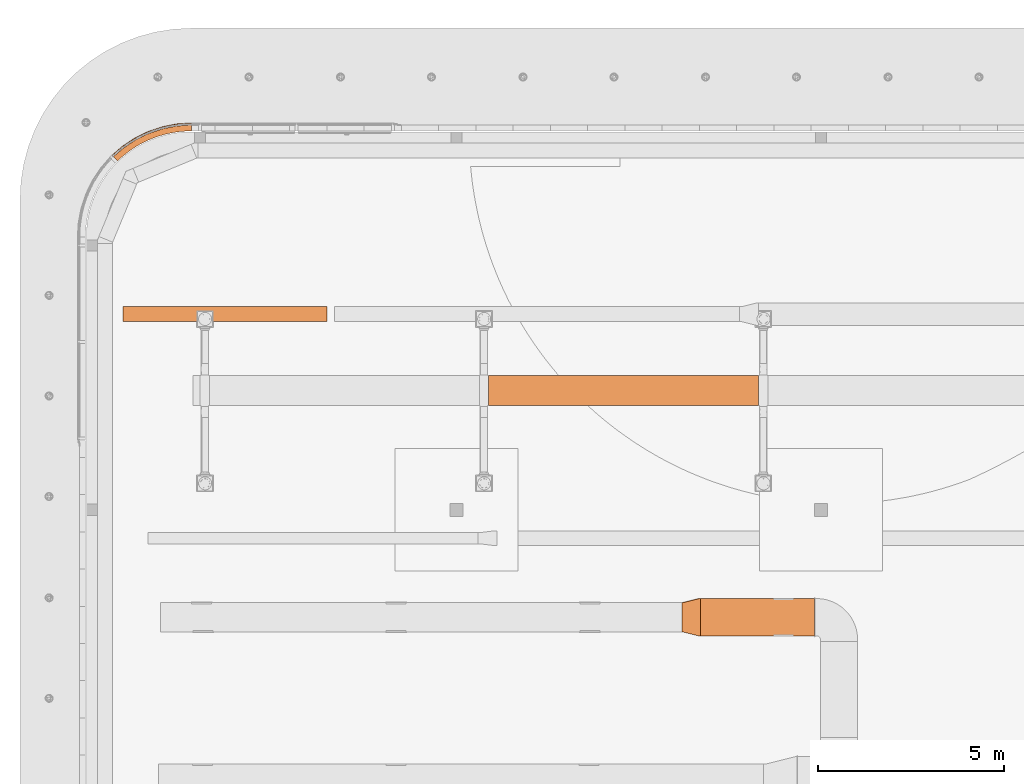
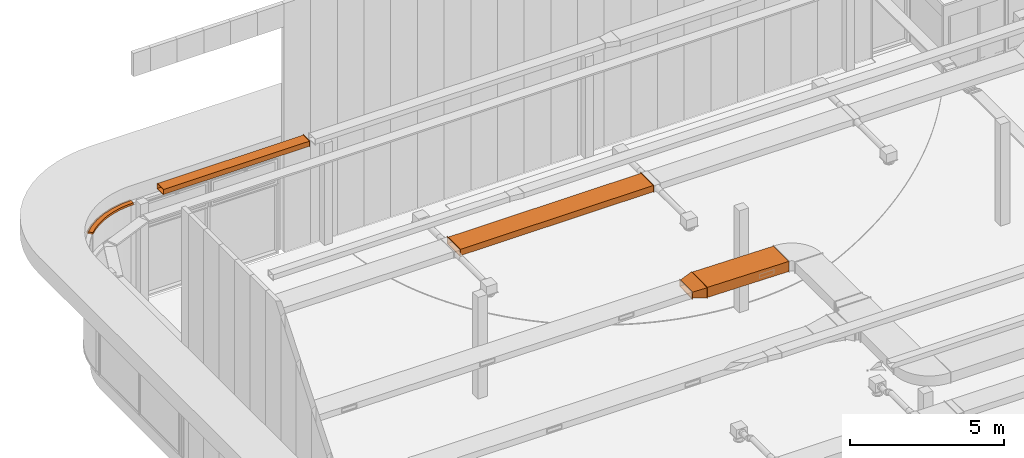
# One storey, part 297 of 302: 5 proxies.
"""IFC2X3 building model written with IfcOpenShell, lengths in metres."""

import ifcopenshell
import ifcopenshell.guid

model = None  # the IFC model being written
_history = None  # IfcOwnerHistory: only IFC2X3 demands one
_inside = {}  # id of a spatial element -> (the spatial element, [elements in it])
_under = {}  # id of a project, library or spatial element -> (it, [spatial elements below it])
_declared = {}  # id of a project -> (the project, [libraries it declares])
_typed = {}  # id of a type object -> (the type object, [elements of that type])
_made_of = {}  # id of a material, layer set ... -> (it, [elements and type objects made of it])


def new_model(schema):
    """Start an empty IFC model of exactly this schema.

    Asked for "IFC4X3", IfcOpenShell would pick the latest addendum, in which some entities
    have other attributes; the version numbers below select the first issue.
    IFC2X3 requires an IfcOwnerHistory on every rooted entity: one is made here for all.
    """
    global model, _history
    if schema == "IFC4X3":
        model = ifcopenshell.file(schema_version=(4, 3, 0, 0))
    else:
        model = ifcopenshell.file(schema=schema)
    _inside.clear()
    _under.clear()
    _declared.clear()
    _typed.clear()
    _made_of.clear()
    _history = None
    if model.schema == "IFC2X3":
        org = make("IfcOrganization", Name="unknown")
        user = make(
            "IfcPersonAndOrganization",
            ThePerson=make("IfcPerson", FamilyName="unknown"),
            TheOrganization=org,
        )
        app = make(
            "IfcApplication",
            ApplicationDeveloper=org,
            Version="unknown",
            ApplicationFullName="unknown",
            ApplicationIdentifier="unknown",
        )
        _history = make(
            "IfcOwnerHistory",
            OwningUser=user,
            OwningApplication=app,
            ChangeAction="ADDED",
            CreationDate=0,
        )
    return model


def make(cls, **values):
    """One entity of the class cls with the attributes given. An attribute that is None is left unset."""
    return model.create_entity(
        cls, **{name: value for name, value in values.items() if value is not None}
    )


def entity(cls, *values):
    """Any entity or typed value of the class cls, its attributes in the order of the schema. None: left unset."""
    e = model.create_entity(cls)
    for i, value in enumerate(values):
        if value is not None:
            e[i] = value
    return e


def rooted(cls, **values):
    """An entity with a GlobalId (a new one), such as an element, a storey or a relation."""
    return make(cls, GlobalId=ifcopenshell.guid.new(), OwnerHistory=_history, **values)


def si_unit(unit_type, name, prefix=None):
    """IfcSIUnit, for example si_unit("LENGTHUNIT", "METRE", prefix="MILLI")."""
    return make("IfcSIUnit", UnitType=unit_type, Prefix=prefix, Name=name)


def converted_unit(unit_type, name, factor, base, dimensions=None, offset=None):
    """IfcConversionBasedUnit, such as the inch: factor (a typed value) times the base unit."""
    return make(
        "IfcConversionBasedUnit"
        if offset is None
        else "IfcConversionBasedUnitWithOffset",
        ConversionOffset=offset,
        Dimensions=None
        if dimensions is None
        else entity("IfcDimensionalExponents", *dimensions),
        UnitType=unit_type,
        Name=name,
        ConversionFactor=make(
            "IfcMeasureWithUnit", ValueComponent=factor, UnitComponent=base
        ),
    )


def derived_unit(unit_type, elements):
    """IfcDerivedUnit: a product of units, each with its exponent."""
    return make(
        "IfcDerivedUnit",
        Elements=[
            make("IfcDerivedUnitElement", Unit=unit, Exponent=power)
            for unit, power in elements
        ],
        UnitType=unit_type,
    )


def assignment(units):
    """IfcUnitAssignment: the units of a project."""
    return None if units is None else make("IfcUnitAssignment", Units=units)


def point(xyz):
    """IfcCartesianPoint."""
    return None if xyz is None else make("IfcCartesianPoint", Coordinates=xyz)


def direction(xyz):
    """IfcDirection."""
    return None if xyz is None else make("IfcDirection", DirectionRatios=xyz)


def frame(location, z_axis=None, x_axis=None):
    """IfcAxis2Placement3D, a coordinate frame: its origin and axes. An axis left out is left unset."""
    return make(
        "IfcAxis2Placement3D",
        Location=point(location),
        Axis=direction(z_axis),
        RefDirection=direction(x_axis),
    )


def origin():
    """The frame at (0, 0, 0) with its axes left unset."""
    return frame((0.0, 0.0, 0.0))


def place(relative_to, where):
    """IfcLocalPlacement: puts the frame where relative to a parent placement (None: the world)."""
    return make(
        "IfcLocalPlacement", PlacementRelTo=relative_to, RelativePlacement=where
    )


def context(
    kind, dimensions, precision=None, world=None, true_north=None, identifier=None
):
    """IfcGeometricRepresentationContext, for example the 3D "Model" context."""
    return make(
        "IfcGeometricRepresentationContext",
        ContextIdentifier=identifier,
        ContextType=kind,
        CoordinateSpaceDimension=dimensions,
        Precision=precision,
        WorldCoordinateSystem=world,
        TrueNorth=true_north,
    )


def subcontext(parent, identifier, kind, view, scale=None):
    """IfcGeometricRepresentationSubContext, for example "Body" below "Model"."""
    return make(
        "IfcGeometricRepresentationSubContext",
        ContextIdentifier=identifier,
        ContextType=kind,
        ParentContext=parent,
        TargetScale=scale,
        TargetView=view,
    )


def project(units=None, contexts=None):
    """IfcProject with its units and contexts."""
    return rooted(
        "IfcProject",
        Name="project",
        RepresentationContexts=contexts,
        UnitsInContext=assignment(units),
    )


def spatial(cls, under=None, at=None, **own):
    """A site, building, storey or space (cls), placed at a placement, below another one or the project."""
    s = rooted(cls, ObjectPlacement=at, **own)
    if under is not None:
        _under.setdefault(under.id(), (under, []))[1].append(s)
    return s


def faces_of(points, faces, orient=None, outer=None):
    """IfcFace entities. A face is a list of loops; a loop is a list of indices into points, from 0.

    orient and outer hold one flag for each loop. By default every Orientation is true, the
    first loop of a face is its IfcFaceOuterBound and the others are IfcFaceBound.
    """
    made = []
    for i, loops in enumerate(faces):
        bounds = []
        for j, loop in enumerate(loops):
            is_outer = j == 0 if outer is None else outer[i][j]
            bounds.append(
                make(
                    "IfcFaceOuterBound" if is_outer else "IfcFaceBound",
                    Bound=make("IfcPolyLoop", Polygon=[points[k] for k in loop]),
                    Orientation=True if orient is None else orient[i][j],
                )
            )
        made.append(make("IfcFace", Bounds=bounds))
    return made


def face_set(faces, orient=None, outer=None):
    """The faces of one IfcConnectedFaceSet. surface_model builds it on its shared points."""
    return ("IfcConnectedFaceSet", faces, orient, outer)


def faceted_brep(points, faces, orient=None, outer=None, voids=None):
    """IfcFacetedBrep: a solid bounded by flat faces; with voids (closed shells), ...WithVoids."""
    shared = [point(p) for p in points]
    hull = make("IfcClosedShell", CfsFaces=faces_of(shared, faces, orient, outer))
    if voids is None:
        return make("IfcFacetedBrep", Outer=hull)
    return make(
        "IfcFacetedBrepWithVoids",
        Outer=hull,
        Voids=[
            make(cls, CfsFaces=faces_of(shared, fs, o, b)) for cls, fs, o, b in voids
        ],
    )


def surface_model(cls, points, shells):
    """IfcFaceBasedSurfaceModel or IfcShellBasedSurfaceModel (cls): surfaces that need not close."""
    shared = [point(p) for p in points]
    made = [make(c, CfsFaces=faces_of(shared, fs, o, b)) for c, fs, o, b in shells]
    if cls == "IfcFaceBasedSurfaceModel":
        return make(cls, FbsmFaces=made)
    return make(cls, SbsmBoundary=made)


def shape(context_of_items, identifier, shape_type, items):
    """IfcShapeRepresentation: the items that make up one representation, for example the "Body"."""
    return make(
        "IfcShapeRepresentation",
        ContextOfItems=context_of_items,
        RepresentationIdentifier=identifier,
        RepresentationType=shape_type,
        Items=items,
    )


def source(mapping_origin, context_of_items, identifier, shape_type, items):
    """IfcRepresentationMap: a shape defined once, which mapped items show again and again."""
    return make(
        "IfcRepresentationMap",
        MappingOrigin=mapping_origin,
        MappedRepresentation=shape(context_of_items, identifier, shape_type, items),
    )


def transform(
    local_origin,
    x_axis=None,
    y_axis=None,
    z_axis=None,
    scale=None,
    scale2=None,
    scale3=None,
    uniform=True,
):
    """IfcCartesianTransformationOperator3D, or its non-uniform kind. x_axis, y_axis, z_axis: its Axis1, 2, 3."""
    if uniform:
        return make(
            "IfcCartesianTransformationOperator3D",
            Axis1=direction(x_axis),
            Axis2=direction(y_axis),
            LocalOrigin=point(local_origin),
            Scale=scale,
            Axis3=direction(z_axis),
        )
    return make(
        "IfcCartesianTransformationOperator3DnonUniform",
        Axis1=direction(x_axis),
        Axis2=direction(y_axis),
        LocalOrigin=point(local_origin),
        Scale=scale,
        Axis3=direction(z_axis),
        Scale2=scale2,
        Scale3=scale3,
    )


def mapped(mapping_source, mapping_target):
    """IfcMappedItem: shows the shape of a source again, moved by a transform."""
    return make(
        "IfcMappedItem", MappingSource=mapping_source, MappingTarget=mapping_target
    )


def material(Name=None, Category=None):
    """IfcMaterial."""
    return make("IfcMaterial", Name=Name, Category=Category)


def made_of(thing, what):
    """Note that an element or type object is made of a material, layer set ...; save() writes the relation."""
    if what is not None:
        _made_of.setdefault(what.id(), (what, []))[1].append(thing)
    return thing


def type_object(cls, material=None, **own):
    """A type object (cls), such as IfcWallType, which elements share."""
    return made_of(rooted(cls, **own), material)


def type_shapes(of_type, sources):
    """Give a type object the sources (RepresentationMaps) that its elements show as mapped items."""
    of_type.RepresentationMaps = sources


def element(
    cls,
    number,
    at=None,
    inside=None,
    cuts=None,
    type_object=None,
    material=None,
    context=None,
    identifier="Body",
    shape_type=None,
    held_by="IfcProductDefinitionShape",
    body=None,
    shapes=None,
    **own,
):
    """One element of the class cls, such as IfcWall. Its Tag is "e" and its number.

    at: its placement. inside: the storey or other place that contains it. cuts: it is an
    opening in that element (IfcRelVoidsElement). A single representation is given by context,
    identifier, shape_type and body (its items); several are given by shapes. held_by: the class
    of the entity that holds the representations. save() writes the other relations.
    """
    e = rooted(cls, Tag="e%d" % number, ObjectPlacement=at, **own)
    if body is not None:
        shapes = [shape(context, identifier, shape_type, body)]
    if shapes is not None:
        e.Representation = make(held_by, Representations=shapes)
    if inside is not None:
        _inside.setdefault(inside.id(), (inside, []))[1].append(e)
    if cuts is not None:
        rooted(
            "IfcRelVoidsElement", RelatingBuildingElement=cuts, RelatedOpeningElement=e
        )
    if type_object is not None:
        _typed.setdefault(type_object.id(), (type_object, []))[1].append(e)
    return made_of(e, material)


def aggregate(whole, parts):
    """IfcRelAggregates: a whole, such as a stair, and the parts it consists of."""
    return rooted("IfcRelAggregates", RelatingObject=whole, RelatedObjects=parts)


def save(model, path):
    """Write the relations noted so far, then the file.

    IfcRelAggregates (storeys below a building ...), IfcRelContainedInSpatialStructure (elements
    in a storey), IfcRelDefinesByType, IfcRelAssociatesMaterial and IfcRelDeclares: one each for
    every whole, place, type object, material and project.
    """
    for whole, parts in _under.values():
        aggregate(whole, parts)
    for where, things in _inside.values():
        rooted(
            "IfcRelContainedInSpatialStructure",
            RelatedElements=things,
            RelatingStructure=where,
        )
    for kind, things in _typed.values():
        rooted("IfcRelDefinesByType", RelatedObjects=things, RelatingType=kind)
    for what, things in _made_of.values():
        rooted("IfcRelAssociatesMaterial", RelatedObjects=things, RelatingMaterial=what)
    for by, libraries in _declared.values():
        rooted("IfcRelDeclares", RelatingContext=by, RelatedDefinitions=libraries)
    model.write(path)


model = new_model("IFC2X3")

# Units and contexts
model_context = context("Model", 3, precision=1e-05, world=origin(), true_north=direction((6.12303176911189e-17, 1.0)))
body_context = subcontext(model_context, "Body", "Model", "MODEL_VIEW")
ifc_project = project(units=[si_unit("LENGTHUNIT", "METRE"), si_unit("AREAUNIT", "SQUARE_METRE"), si_unit("VOLUMEUNIT", "CUBIC_METRE"), converted_unit("PLANEANGLEUNIT", "DEGREE", entity("IfcRatioMeasure", 0.0174532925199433), si_unit("PLANEANGLEUNIT", "RADIAN"), dimensions=[0, 0, 0, 0, 0, 0, 0]), si_unit("MASSUNIT", "GRAM", prefix="KILO"), derived_unit("MASSDENSITYUNIT", [(si_unit("MASSUNIT", "GRAM", prefix="KILO"), 1), (si_unit("LENGTHUNIT", "METRE"), -3)]), derived_unit("MOMENTOFINERTIAUNIT", [(si_unit("LENGTHUNIT", "METRE"), 4)]), si_unit("TIMEUNIT", "SECOND"), si_unit("FREQUENCYUNIT", "HERTZ"), si_unit("THERMODYNAMICTEMPERATUREUNIT", "DEGREE_CELSIUS"), derived_unit("THERMALTRANSMITTANCEUNIT", [(si_unit("MASSUNIT", "GRAM", prefix="KILO"), 1), (si_unit("THERMODYNAMICTEMPERATUREUNIT", "KELVIN"), -1), (si_unit("TIMEUNIT", "SECOND"), -3)]), derived_unit("VOLUMETRICFLOWRATEUNIT", [(si_unit("LENGTHUNIT", "METRE"), 3), (si_unit("TIMEUNIT", "SECOND"), -1)]), si_unit("ELECTRICCURRENTUNIT", "AMPERE"), si_unit("ELECTRICVOLTAGEUNIT", "VOLT"), si_unit("POWERUNIT", "WATT"), si_unit("FORCEUNIT", "NEWTON", prefix="KILO"), si_unit("ILLUMINANCEUNIT", "LUX"), si_unit("LUMINOUSFLUXUNIT", "LUMEN"), si_unit("LUMINOUSINTENSITYUNIT", "CANDELA"), derived_unit("USERDEFINED", [(si_unit("MASSUNIT", "GRAM", prefix="KILO"), -1), (si_unit("LENGTHUNIT", "METRE"), -2), (si_unit("TIMEUNIT", "SECOND"), 3), (si_unit("LUMINOUSFLUXUNIT", "LUMEN"), 1)]), derived_unit("LINEARVELOCITYUNIT", [(si_unit("LENGTHUNIT", "METRE"), 1), (si_unit("TIMEUNIT", "SECOND"), -1)]), si_unit("PRESSUREUNIT", "PASCAL"), derived_unit("USERDEFINED", [(si_unit("LENGTHUNIT", "METRE"), -2), (si_unit("MASSUNIT", "GRAM", prefix="KILO"), 1), (si_unit("TIMEUNIT", "SECOND"), -2)]), derived_unit("LINEARFORCEUNIT", [(si_unit("MASSUNIT", "GRAM", prefix="KILO"), 1), (si_unit("LENGTHUNIT", "METRE"), 1), (si_unit("TIMEUNIT", "SECOND"), -2), (si_unit("LENGTHUNIT", "METRE"), -1)]), derived_unit("PLANARFORCEUNIT", [(si_unit("MASSUNIT", "GRAM", prefix="KILO"), 1), (si_unit("LENGTHUNIT", "METRE"), 1), (si_unit("TIMEUNIT", "SECOND"), -2), (si_unit("LENGTHUNIT", "METRE"), -2)])], contexts=[model_context])

# Site, building, storey
site_placement = place(None, origin())
site = spatial("IfcSite", under=ifc_project, at=site_placement, Name="Default", CompositionType="ELEMENT")
building_placement = place(site_placement, origin())
building = spatial("IfcBuilding", under=site, at=building_placement, CompositionType="ELEMENT")
storey_placement = place(building_placement, frame((0.0, 0.0, -1.3)))
storey = spatial("IfcBuildingStorey", under=building, at=storey_placement, Name="00_EG", CompositionType="ELEMENT", Elevation=-1.3)

# Proxies
ifc_material = material(Name="Prepainted_Steel-ArcelorMittal_Construction_HAIRULTRA-35-CORAL-4309-[RAL_3000]")
building_element_proxy_type_1 = type_object("IfcBuildingElementProxyType", Name="Fassadenrahmen Typ5:Fassadenrahmen Typ1", PredefinedType="NOTDEFINED", material=ifc_material)
shared_shape = source(origin(), body_context, "Body", "Brep", [
    faceted_brep([(0.0434522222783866, 0.116230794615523, 0.0800000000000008), (0.0434522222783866, 0.116230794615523, 0.0600000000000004), (0.0190356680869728, 0.141307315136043, 0.0599999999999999), (0.0190356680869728, 0.141307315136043, 0.0799999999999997), (0.00159527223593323, 0.159219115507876, 0.0799999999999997), (0.00159527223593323, 0.159219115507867, 0.0), (0.0190356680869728, 0.141307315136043, 0.0), (0.0190356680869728, 0.141307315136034, 0.0200000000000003), (0.0434522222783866, 0.116230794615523, 0.0200000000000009), (0.0434522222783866, 0.116230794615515, 0.0), (0.155070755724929, 0.0015952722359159, 0.0), (0.155070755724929, 0.00159527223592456, 0.0800000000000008), (2.13629972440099, 0.806814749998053, 0.0800000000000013), (2.13629972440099, 0.806814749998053, 0.0), (2.13629972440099, 0.966814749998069, 0.0), (2.13629972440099, 0.966814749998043, 0.0200000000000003), (2.13629972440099, 1.00181474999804, 0.0200000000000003), (2.13629972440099, 1.00181474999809, 0.0), (2.13629972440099, 1.02681474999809, 0.0), (2.13629972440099, 1.02681474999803, 0.0799999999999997), (2.13629972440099, 1.00181474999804, 0.0800000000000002), (2.13629972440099, 1.00181474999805, 0.0600000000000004), (2.13629972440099, 0.966814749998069, 0.0600000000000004), (2.13629972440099, 0.966814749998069, 0.0800000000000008), (1.37272960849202, 0.868014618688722, 0.0800000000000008), (1.28123544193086, 0.837522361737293, 0.0800000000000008), (1.18974127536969, 0.807030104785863, 0.0800000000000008), (1.09824710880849, 0.776537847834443, 0.0800000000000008), (1.00675294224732, 0.746045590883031, 0.0800000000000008), (0.919928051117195, 0.704064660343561, 0.0800000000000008), (0.833103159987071, 0.662083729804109, 0.0800000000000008), (0.746278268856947, 0.620102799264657, 0.0800000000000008), (0.659453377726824, 0.578121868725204, 0.0800000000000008), (0.578733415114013, 0.525346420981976, 0.0800000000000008), (0.498013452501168, 0.472570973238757, 0.0800000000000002), (0.417293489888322, 0.419795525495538, 0.0800000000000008), (0.336573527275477, 0.367020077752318, 0.0800000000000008), (0.28077446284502, 0.319279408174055, 0.0800000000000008), (0.224975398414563, 0.271538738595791, 0.0800000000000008), (0.134213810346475, 0.193884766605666, 0.0800000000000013), (0.289994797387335, 0.124767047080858, 0.0800000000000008), (0.432558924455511, 0.239009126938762, 0.0800000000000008), (0.582173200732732, 0.34384877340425, 0.0800000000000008), (0.738218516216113, 0.438852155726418, 0.0800000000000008), (0.900049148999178, 0.523626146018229, 0.0800000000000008), (1.0669954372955, 0.597819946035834, 0.0800000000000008), (1.23836655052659, 0.661126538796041, 0.0800000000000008), (1.41345334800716, 0.713283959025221, 0.0800000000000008), (1.59153131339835, 0.75407637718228, 0.0800000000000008), (1.77186355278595, 0.783334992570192, 0.0800000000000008), (1.95370384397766, 0.800938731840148, 0.0800000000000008), (2.04005777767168, 0.96061410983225, 0.0800000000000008), (1.94381583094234, 0.95441346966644, 0.0800000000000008), (1.847573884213, 0.948212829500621, 0.0800000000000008), (1.7513319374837, 0.942012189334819, 0.0800000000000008), (1.6566813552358, 0.923512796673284, 0.0800000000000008), (1.5620307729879, 0.905013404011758, 0.0800000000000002), (1.46738019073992, 0.88651401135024, 0.0800000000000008), (1.35745820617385, 0.926038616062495, 0.0799999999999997), (0.984162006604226, 0.80163020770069, 0.0799999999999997), (0.629916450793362, 0.630348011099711, 0.0799999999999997), (0.300579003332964, 0.415024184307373, 0.0799999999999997), (0.0911297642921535, 0.207121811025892, 0.0800000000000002), (0.163223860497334, 0.272936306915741, 0.0800000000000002), (0.239400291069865, 0.333979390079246, 0.0800000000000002), (0.315576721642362, 0.39502247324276, 0.0800000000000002), (0.395520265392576, 0.451041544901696, 0.0800000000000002), (0.475463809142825, 0.507060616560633, 0.0800000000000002), (0.55884365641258, 0.557823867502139, 0.0800000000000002), (0.642223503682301, 0.608587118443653, 0.0800000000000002), (0.728694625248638, 0.653884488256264, 0.0800000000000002), (0.815165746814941, 0.699181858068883, 0.0800000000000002), (0.904370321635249, 0.738825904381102, 0.0800000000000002), (0.993574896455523, 0.778469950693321, 0.0800000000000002), (1.08514379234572, 0.812296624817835, 0.0800000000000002), (1.17671268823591, 0.846123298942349, 0.0800000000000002), (1.27026698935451, 0.873992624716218, 0.0800000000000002), (1.36382129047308, 0.901861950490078, 0.0800000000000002), (1.45897386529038, 0.923658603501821, 0.0800000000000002), (1.55412644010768, 0.945455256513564, 0.0800000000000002), (1.65048354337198, 0.961089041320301, 0.0800000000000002), (1.74684064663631, 0.976722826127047, 0.0800000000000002), (1.84400354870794, 0.986129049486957, 0.0800000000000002), (1.94116645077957, 0.995535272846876, 0.0800000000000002), (2.03873308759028, 0.99867501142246, 0.0800000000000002), (1.74363258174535, 1.00151613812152, 0.0799999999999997), (0.336573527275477, 0.367020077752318, 0.0600000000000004), (0.263293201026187, 0.304322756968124, 0.0600000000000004), (0.190012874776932, 0.241625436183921, 0.0600000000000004), (0.134213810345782, 0.193884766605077, 0.0600000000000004), (0.336573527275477, 0.367020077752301, 0.0200000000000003), (0.336573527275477, 0.367020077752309, 0.0), (0.280774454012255, 0.319279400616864, 0.0), (0.224975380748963, 0.271538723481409, 0.0), (0.134213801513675, 0.193884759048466, 0.0), (0.116732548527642, 0.178928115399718, 0.0200000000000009), (0.190012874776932, 0.241625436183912, 0.0200000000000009), (0.263293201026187, 0.304322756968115, 0.0200000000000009), (2.01709898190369, 0.95913492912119, 0.0600000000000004), (1.94381583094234, 0.95441346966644, 0.0600000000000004), (1.847573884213, 0.948212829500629, 0.0600000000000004), (1.7513319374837, 0.94201218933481, 0.0600000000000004), (1.847573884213, 0.948212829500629, 0.0200000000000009), (1.94381583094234, 0.95441346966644, 0.0200000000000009), (2.01709898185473, 0.959134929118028, 0.0200000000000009), (2.01709898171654, 0.959134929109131, 0.0), (1.89789823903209, 0.951455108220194, 0.0), (1.82461508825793, 0.946733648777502, 0.0), (1.7513319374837, 0.94201218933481, 0.0), (1.7513319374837, 0.942012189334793, 0.0200000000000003), (0.659453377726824, 0.578121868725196, 0.0600000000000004), (1.00675294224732, 0.746045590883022, 0.0600000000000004), (0.919928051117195, 0.70406466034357, 0.0600000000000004), (0.833103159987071, 0.662083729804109, 0.0600000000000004), (0.746278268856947, 0.620102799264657, 0.0600000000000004), (0.919928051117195, 0.704064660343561, 0.0), (0.833103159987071, 0.662083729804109, 0.0), (0.746278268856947, 0.620102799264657, 0.0), (0.659453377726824, 0.578121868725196, 0.0), (0.659453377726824, 0.578121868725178, 0.0200000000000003), (0.746278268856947, 0.620102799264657, 0.0200000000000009), (0.833103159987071, 0.662083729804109, 0.0200000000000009), (0.919928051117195, 0.704064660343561, 0.0200000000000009), (1.00675294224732, 0.746045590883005, 0.0200000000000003), (1.00675294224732, 0.746045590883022, 0.0), (0.578733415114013, 0.525346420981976, 0.0600000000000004), (0.498013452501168, 0.472570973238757, 0.0600000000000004), (0.417293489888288, 0.419795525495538, 0.0600000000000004), (0.417293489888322, 0.419795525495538, 0.0200000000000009), (0.498013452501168, 0.472570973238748, 0.0200000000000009), (0.578733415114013, 0.525346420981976, 0.0200000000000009), (0.578733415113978, 0.525346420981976, 0.0), (0.498013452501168, 0.472570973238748, 0.0), (0.417293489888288, 0.419795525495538, 0.0), (1.65668135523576, 0.923512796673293, 0.0600000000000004), (1.56203077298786, 0.905013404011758, 0.0600000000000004), (1.46738019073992, 0.88651401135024, 0.0600000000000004), (1.37272960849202, 0.868014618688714, 0.0600000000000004), (1.56203077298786, 0.905013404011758, 0.0), (1.46738019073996, 0.88651401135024, 0.0), (1.37272960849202, 0.868014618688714, 0.0), (1.37272960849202, 0.868014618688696, 0.0200000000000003), (1.46738019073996, 0.88651401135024, 0.0200000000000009), (1.56203077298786, 0.905013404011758, 0.0200000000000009), (1.65668135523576, 0.923512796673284, 0.0200000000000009), (1.65668135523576, 0.923512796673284, 0.0), (1.09824710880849, 0.776537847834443, 0.0600000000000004), (1.28123544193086, 0.837522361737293, 0.0600000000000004), (1.18974127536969, 0.807030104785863, 0.0600000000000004), (1.09824710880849, 0.776537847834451, 0.0200000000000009), (1.18974127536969, 0.807030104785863, 0.0200000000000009), (1.28123544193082, 0.837522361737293, 0.0200000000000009), (1.28123544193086, 0.837522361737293, 0.0), (1.18974127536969, 0.807030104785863, 0.0), (1.09824710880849, 0.776537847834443, 0.0), (2.01615708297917, 0.997948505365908, 0.0599999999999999), (1.94116645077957, 0.995535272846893, 0.0600000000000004), (1.84400354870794, 0.986129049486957, 0.0599999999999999), (1.74684064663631, 0.976722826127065, 0.0600000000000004), (1.65048354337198, 0.961089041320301, 0.0599999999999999), (1.55412644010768, 0.945455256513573, 0.0600000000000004), (1.45897386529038, 0.923658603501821, 0.0599999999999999), (1.36382129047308, 0.901861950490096, 0.0600000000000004), (1.27026698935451, 0.873992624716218, 0.0599999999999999), (1.17671268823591, 0.846123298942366, 0.0600000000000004), (1.08514379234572, 0.812296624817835, 0.0599999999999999), (0.993574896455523, 0.778469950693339, 0.0600000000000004), (0.904370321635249, 0.738825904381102, 0.0599999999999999), (0.815165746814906, 0.6991818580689, 0.0600000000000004), (0.728694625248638, 0.653884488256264, 0.0599999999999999), (0.642223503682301, 0.608587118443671, 0.0600000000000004), (0.55884365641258, 0.557823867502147, 0.0599999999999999), (0.475463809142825, 0.50706061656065, 0.0600000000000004), (0.395520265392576, 0.451041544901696, 0.0599999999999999), (0.315576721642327, 0.395022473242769, 0.0600000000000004), (0.239400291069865, 0.333979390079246, 0.0599999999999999), (0.163223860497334, 0.27293630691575, 0.0600000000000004), (0.0911297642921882, 0.207121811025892, 0.0599999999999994), (0.728694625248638, 0.653884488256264, 0.0200000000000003), (0.642223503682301, 0.608587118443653, 0.0200000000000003), (0.642223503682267, 0.608587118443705, 0.0), (0.728694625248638, 0.653884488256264, 0.0), (0.815165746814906, 0.699181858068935, 0.0), (0.815165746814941, 0.699181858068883, 0.0200000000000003), (0.55884365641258, 0.557823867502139, 0.0199999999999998), (0.475463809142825, 0.507060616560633, 0.0200000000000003), (0.47546380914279, 0.507060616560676, 0.0), (0.55884365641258, 0.557823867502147, 0.0), (0.0911297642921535, 0.207121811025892, 0.0), (0.1632238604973, 0.272936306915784, 0.0), (0.163223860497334, 0.272936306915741, 0.0200000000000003), (0.0911297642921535, 0.207121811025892, 0.0200000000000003), (0.904370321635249, 0.738825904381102, 0.0), (0.993574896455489, 0.778469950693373, 0.0), (0.993574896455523, 0.778469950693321, 0.0200000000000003), (0.904370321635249, 0.738825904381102, 0.0200000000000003), (0.315576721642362, 0.39502247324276, 0.0200000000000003), (0.239400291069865, 0.333979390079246, 0.0200000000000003), (0.239400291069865, 0.333979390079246, 0.0), (0.315576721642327, 0.395022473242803, 0.0), (0.395520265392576, 0.451041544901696, 0.0), (0.395520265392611, 0.451041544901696, 0.0199999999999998), (1.27026698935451, 0.873992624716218, 0.0), (1.36382129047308, 0.90186195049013, 0.0), (1.36382129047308, 0.901861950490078, 0.0200000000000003), (1.27026698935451, 0.873992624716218, 0.0200000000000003), (1.17671268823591, 0.846123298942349, 0.0200000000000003), (1.17671268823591, 0.846123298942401, 0.0), (1.08514379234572, 0.812296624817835, 0.0), (1.08514379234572, 0.812296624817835, 0.0200000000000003), (1.55412644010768, 0.945455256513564, 0.0200000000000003), (1.45897386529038, 0.923658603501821, 0.0200000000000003), (1.45897386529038, 0.923658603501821, 0.0), (1.55412644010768, 0.945455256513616, 0.0), (1.94116645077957, 0.995535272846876, 0.0200000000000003), (1.84400354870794, 0.986129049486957, 0.0200000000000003), (1.74684064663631, 0.976722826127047, 0.0200000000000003), (1.74684064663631, 0.976722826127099, 0.0), (1.84400354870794, 0.986129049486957, 0.0), (1.94116645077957, 0.995535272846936, 0.0), (2.03873308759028, 0.99867501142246, 0.0200000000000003), (2.01615708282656, 0.997948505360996, 0.0), (1.65048354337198, 0.961089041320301, 0.0200000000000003), (1.65048354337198, 0.961089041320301, 0.0), (0.984162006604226, 0.801630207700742, 0.0), (0.629916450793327, 0.630348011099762, 0.0), (0.300579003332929, 0.415024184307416, 0.0), (1.35745820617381, 0.926038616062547, 0.0), (1.74363258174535, 1.00151613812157, 0.0), (1.59153131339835, 0.754076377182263, 0.0), (1.41345334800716, 0.713283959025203, 0.0), (1.23836655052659, 0.661126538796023, 0.0), (1.0669954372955, 0.597819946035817, 0.0), (0.900049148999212, 0.523626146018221, 0.0), (0.738218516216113, 0.438852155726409, 0.0), (0.582173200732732, 0.343848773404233, 0.0), (0.432558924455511, 0.239009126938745, 0.0), (0.289994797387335, 0.124767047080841, 0.0), (1.95370384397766, 0.80093873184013, 0.0), (1.77186355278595, 0.783334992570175, 0.0)], [[[0, 1, 2, 3, 4, 5, 6, 7, 8, 9, 10, 11]], [[12, 13, 14, 15, 16, 17, 18, 19, 20, 21, 22, 23]], [[24, 25, 26, 27, 28, 29, 30, 31, 32, 33, 34, 35, 36, 37, 38, 39, 0, 11, 40, 41, 42, 43, 44, 45, 46, 47, 48, 49, 50, 12, 23, 51, 52, 53, 54, 55, 56, 57]], [[58, 59, 60, 61, 4, 3, 62, 63, 64, 65, 66, 67, 68, 69, 70, 71, 72, 73, 74, 75, 76, 77, 78, 79, 80, 81, 82, 83, 84, 20, 19, 85]], [[37, 36, 86, 87, 88, 89, 1, 0, 39, 38]], [[90, 91, 92, 93, 94, 9, 8, 95, 96, 97]], [[22, 98, 99, 100, 101, 54, 53, 52, 51, 23]], [[102, 103, 104, 15, 14, 105, 106, 107, 108, 109]], [[110, 32, 31, 30, 29, 28, 111, 112, 113, 114]], [[115, 116, 117, 118, 119, 120, 121, 122, 123, 124]], [[86, 36, 35, 34, 33, 32, 110, 125, 126, 127]], [[128, 129, 130, 119, 118, 131, 132, 133, 91, 90]], [[56, 55, 54, 101, 134, 135, 136, 137, 24, 57]], [[138, 139, 140, 141, 142, 143, 144, 109, 108, 145]], [[146, 111, 28, 27, 26, 25, 24, 137, 147, 148]], [[149, 150, 151, 141, 140, 152, 153, 154, 124, 123]], [[137, 136, 135, 134, 101, 100, 99, 98, 22, 21, 155, 156, 157, 158, 159, 160, 161, 162, 163, 164, 165, 166, 167, 168, 169, 170, 171, 172, 173, 174, 175, 176, 177, 2, 1, 89, 88, 87, 86, 127, 126, 125, 110, 114, 113, 112, 111, 146, 148, 147]], [[170, 169, 168, 71, 70, 69]], [[178, 179, 180, 181, 182, 183]], [[172, 171, 170, 69, 68, 67]], [[184, 185, 186, 187, 180, 179]], [[3, 2, 177, 176, 63, 62]], [[6, 188, 189, 190, 191, 7]], [[168, 167, 166, 73, 72, 71]], [[192, 193, 194, 195, 183, 182]], [[175, 174, 65, 64, 63, 176]], [[196, 197, 190, 189, 198, 199]], [[174, 173, 172, 67, 66, 65]], [[200, 186, 185, 201, 196, 199]], [[163, 162, 77, 76, 75, 164]], [[202, 203, 204, 205, 206, 207]], [[74, 73, 166, 165, 164, 75]], [[208, 207, 206, 209, 194, 193]], [[161, 160, 79, 78, 77, 162]], [[210, 211, 204, 203, 212, 213]], [[157, 156, 83, 82, 81, 158]], [[214, 215, 216, 217, 218, 219]], [[84, 83, 156, 155, 21, 20]], [[17, 16, 220, 214, 219, 221]], [[160, 159, 158, 81, 80, 79]], [[216, 222, 210, 213, 223, 217]], [[60, 59, 224, 225]], [[5, 4, 61, 226]], [[225, 226, 61, 60]], [[227, 58, 85, 228]], [[228, 85, 19, 18]], [[224, 59, 58, 227]], [[227, 228, 18, 17, 221, 219, 218, 217, 223, 213, 212, 203, 202, 207, 208, 193, 192, 182, 181, 180, 187, 186, 200, 199, 198, 189, 188, 6, 5, 226, 225, 224]], [[229, 230, 231, 232, 233, 234, 235, 236, 237, 10, 9, 94, 93, 92, 91, 133, 132, 131, 118, 117, 116, 115, 124, 154, 153, 152, 140, 139, 138, 145, 108, 107, 106, 105, 14, 13, 238, 239]], [[141, 151, 150, 149, 123, 122, 121, 120, 119, 130, 129, 128, 90, 97, 96, 95, 8, 7, 191, 190, 197, 196, 201, 185, 184, 179, 178, 183, 195, 194, 209, 206, 205, 204, 211, 210, 222, 216, 215, 214, 220, 16, 15, 104, 103, 102, 109, 144, 143, 142]], [[237, 40, 11, 10]], [[44, 43, 234, 233]], [[42, 235, 234, 43]], [[45, 44, 233, 232]], [[41, 40, 237, 236]], [[41, 236, 235, 42]], [[47, 46, 231, 230]], [[47, 230, 229, 48]], [[50, 49, 239, 238]], [[229, 239, 49, 48]], [[12, 50, 238, 13]], [[232, 231, 46, 45]]]),
])
type_shapes(building_element_proxy_type_1, [shared_shape])
proxy_1_placement = place(storey_placement, frame((-265.976411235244, 44.7712742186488, 5.12999999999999)))
element("IfcBuildingElementProxy", 1, at=proxy_1_placement, inside=storey, type_object=building_element_proxy_type_1, material=ifc_material, Name="Fassadenrahmen Typ5:Fassadenrahmen Typ1", ObjectType="Fassadenrahmen Typ5:Fassadenrahmen Typ1", context=body_context, shape_type="MappedRepresentation", body=[
    mapped(shared_shape, transform((0.0, 0.0, 0.0), scale=1.0)),
])
building_element_proxy_type_2 = type_object("IfcBuildingElementProxyType", Name="Transition:Vorgabe", PredefinedType="NOTDEFINED")
proxy_2_placement = place(storey_placement, frame((-250.672515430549, 31.9959586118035, 4.85570272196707)))
element("IfcBuildingElementProxy", 2, at=proxy_2_placement, inside=storey, type_object=building_element_proxy_type_2, Name="Transition:Vorgabe", ObjectType="Transition:Vorgabe", context=body_context, shape_type="SurfaceModel", body=[
    surface_model("IfcFaceBasedSurfaceModel", [(0.455326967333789, 1.02563411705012, 0.438499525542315), (0.0544239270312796, 0.926559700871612, 0.367183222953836), (0.0543040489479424, 0.126619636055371, 0.357390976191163), (0.455177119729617, 0.0257090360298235, 0.426259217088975), (0.450280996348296, 0.0306055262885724, 0.0263191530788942), (0.0512439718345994, 0.129679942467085, 0.107428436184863), (0.0513638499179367, 0.929620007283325, 0.117220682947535), (0.450430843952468, 1.03053060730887, 0.0385594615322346), (0.505173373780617, 0.0257090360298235, 0.425647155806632), (0.505323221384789, 1.02563411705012, 0.437887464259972), (0.0044276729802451, 0.926559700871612, 0.367795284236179), (0.00430779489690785, 0.126619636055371, 0.358003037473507), (0.500427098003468, 1.03053060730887, 0.0379474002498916), (0.500277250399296, 0.0306055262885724, 0.0257070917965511), (0.00124771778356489, 0.129679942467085, 0.108040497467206), (0.00136759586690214, 0.929620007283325, 0.117832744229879), (0.50011900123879, 1.0562396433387, 0.0128621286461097), (0.505636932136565, 1.0507212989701, 0.463594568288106), (0.505479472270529, 0.0, 0.450732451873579), (0.499961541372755, 0.00551834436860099, 1.22315825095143e-08), (0.000934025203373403, 0.10459279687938, 0.082333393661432), (0.00461590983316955, 0.100910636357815, 0.383088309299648), (0.00474340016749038, 0.951646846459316, 0.393502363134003), (0.00106151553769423, 0.955329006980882, 0.0927474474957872)], [face_set([[[0, 1, 2]], [[2, 3, 0]], [[4, 5, 6]], [[6, 7, 4]], [[3, 2, 5]], [[5, 4, 3]], [[7, 6, 1]], [[1, 0, 7]], [[0, 3, 8]], [[8, 9, 0]], [[1, 10, 11]], [[11, 2, 1]], [[12, 13, 4]], [[4, 7, 12]], [[5, 14, 15]], [[15, 6, 5]], [[3, 4, 13]], [[13, 8, 3]], [[2, 11, 14]], [[14, 5, 2]], [[9, 12, 7]], [[7, 0, 9]], [[6, 15, 10]], [[10, 1, 6]], [[16, 12, 9]], [[9, 17, 16]], [[17, 9, 8]], [[8, 18, 17]], [[18, 8, 13]], [[13, 19, 18]], [[19, 13, 12]], [[12, 16, 19]], [[20, 14, 11]], [[11, 21, 20]], [[21, 11, 10]], [[10, 22, 21]], [[22, 10, 15]], [[15, 23, 22]], [[23, 15, 14]], [[14, 20, 23]]])]),
])
building_element_proxy_type_3 = type_object("IfcBuildingElementProxyType", Name="Straight:Vorgabe", PredefinedType="NOTDEFINED")
proxy_3_placement = place(storey_placement, frame((-250.172474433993, 31.9986784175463, 4.82461689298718)))
element("IfcBuildingElementProxy", 3, at=proxy_3_placement, inside=storey, type_object=building_element_proxy_type_3, Name="Straight:Vorgabe", ObjectType="Straight:Vorgabe", context=body_context, shape_type="SurfaceModel", body=[
    surface_model("IfcFaceBasedSurfaceModel", [(3.06839671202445, 1.02540001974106, 0.425368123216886), (0.00520741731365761, 1.02540001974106, 0.462868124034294), (0.00520741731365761, 0.0254000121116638, 0.462868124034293), (3.06839671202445, 0.0254000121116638, 0.425368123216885), (0.000310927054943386, 0.0254000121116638, 0.0628980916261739), (3.06350022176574, 0.0254000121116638, 0.0253980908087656), (0.000310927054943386, 1.02540001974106, 0.062898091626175), (3.06350022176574, 1.02540001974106, 0.0253980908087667), (3.06318829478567, 1.05080003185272, 1.22412270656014e-08), (3.06870663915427, 1.05080003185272, 0.450766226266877), (3.06870663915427, 0.0, 0.450766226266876), (3.06318829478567, 0.0, 1.22412259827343e-08), (1.16263261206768e-06, 0.0, 0.0374999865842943), (0.00551950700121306, 0.0, 0.488266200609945), (0.00551950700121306, 1.05080003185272, 0.488266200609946), (1.16263261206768e-06, 1.05080003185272, 0.0374999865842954)], [face_set([[[0, 1, 2]], [[2, 3, 0]], [[3, 2, 4]], [[4, 5, 3]], [[5, 4, 6]], [[6, 7, 5]], [[7, 6, 1]], [[1, 0, 7]], [[8, 7, 0]], [[0, 9, 8]], [[9, 0, 3]], [[3, 10, 9]], [[10, 3, 5]], [[5, 11, 10]], [[11, 5, 7]], [[7, 8, 11]], [[12, 4, 2]], [[2, 13, 12]], [[13, 2, 1]], [[1, 14, 13]], [[14, 1, 6]], [[6, 15, 14]], [[15, 6, 4]], [[4, 12, 15]]])]),
])
building_element_proxy_type_4 = type_object("IfcBuildingElementProxyType", Name="Straight:Vorgabe", PredefinedType="NOTDEFINED")
proxy_4_placement = place(storey_placement, frame((-255.858284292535, 38.1828258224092, 4.75960000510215)))
element("IfcBuildingElementProxy", 4, at=proxy_4_placement, inside=storey, type_object=building_element_proxy_type_4, Name="Straight:Vorgabe", ObjectType="Straight:Vorgabe", context=body_context, shape_type="SurfaceModel", body=[
    surface_model("IfcFaceBasedSurfaceModel", [(7.24999072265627, 0.825399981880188, 0.275399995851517), (1.14440932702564e-07, 0.825399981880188, 0.275399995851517), (1.14440932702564e-07, 0.0253999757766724, 0.275399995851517), (7.24999072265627, 0.0253999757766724, 0.275399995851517), (1.14440932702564e-07, 0.0253999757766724, 0.0253999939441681), (7.24999072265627, 0.0253999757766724, 0.0253999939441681), (1.14440932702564e-07, 0.825399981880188, 0.0253999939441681), (7.24999072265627, 0.825399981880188, 0.0253999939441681), (7.24998972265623, 0.850799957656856, 0.0), (7.24998972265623, 0.850799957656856, 0.300799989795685), (7.24998972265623, 0.0, 0.300799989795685), (7.24998972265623, 0.0, 0.0), (6.95800795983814e-07, 0.0, 0.0), (6.95800795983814e-07, 0.0, 0.300799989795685), (6.95800795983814e-07, 0.850799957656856, 0.300799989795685), (6.95800795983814e-07, 0.850799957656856, 0.0)], [face_set([[[0, 1, 2]], [[2, 3, 0]], [[3, 2, 4]], [[4, 5, 3]], [[5, 4, 6]], [[6, 7, 5]], [[7, 6, 1]], [[1, 0, 7]], [[8, 7, 0]], [[0, 9, 8]], [[9, 0, 3]], [[3, 10, 9]], [[10, 3, 5]], [[5, 11, 10]], [[11, 5, 7]], [[7, 8, 11]], [[12, 4, 2]], [[2, 13, 12]], [[13, 2, 1]], [[1, 14, 13]], [[14, 1, 6]], [[6, 15, 14]], [[15, 6, 4]], [[4, 12, 15]]])]),
])
building_element_proxy_type_5 = type_object("IfcBuildingElementProxyType", Name="Straight:Vorgabe", PredefinedType="NOTDEFINED")
proxy_5_placement = place(storey_placement, frame((-265.673997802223, 40.4346826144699, 9.25459999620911)))
element("IfcBuildingElementProxy", 5, at=proxy_5_placement, inside=storey, type_object=building_element_proxy_type_5, Name="Straight:Vorgabe", ObjectType="Straight:Vorgabe", context=body_context, shape_type="SurfaceModel", body=[
    surface_model("IfcFaceBasedSurfaceModel", [(0.0, 0.0253999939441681, 0.225400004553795), (5.48173400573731, 0.0253999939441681, 0.225400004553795), (5.48173400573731, 0.425399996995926, 0.225400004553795), (0.0, 0.425399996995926, 0.225400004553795), (5.48173400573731, 0.425399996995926, 0.025400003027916), (0.0, 0.425399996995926, 0.025400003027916), (5.48173400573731, 0.0253999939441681, 0.025400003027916), (0.0, 0.0253999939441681, 0.025400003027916), (1.00000003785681e-06, 0.0, 0.0), (1.00000003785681e-06, 0.0, 0.250800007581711), (1.00000003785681e-06, 0.450799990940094, 0.250800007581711), (1.00000003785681e-06, 0.450799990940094, 0.0), (5.48173284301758, 0.450799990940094, 0.0), (5.48173284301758, 0.450799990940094, 0.250800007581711), (5.48173284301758, 0.0, 0.250800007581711), (5.48173284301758, 0.0, 0.0)], [face_set([[[0, 1, 2]], [[2, 3, 0]], [[3, 2, 4]], [[4, 5, 3]], [[5, 4, 6]], [[6, 7, 5]], [[7, 6, 1]], [[1, 0, 7]], [[8, 7, 0]], [[0, 9, 8]], [[9, 0, 3]], [[3, 10, 9]], [[10, 3, 5]], [[5, 11, 10]], [[11, 5, 7]], [[7, 8, 11]], [[12, 4, 2]], [[2, 13, 12]], [[13, 2, 1]], [[1, 14, 13]], [[14, 1, 6]], [[6, 15, 14]], [[15, 6, 4]], [[4, 12, 15]]])]),
])

save(model, "model.ifc")
